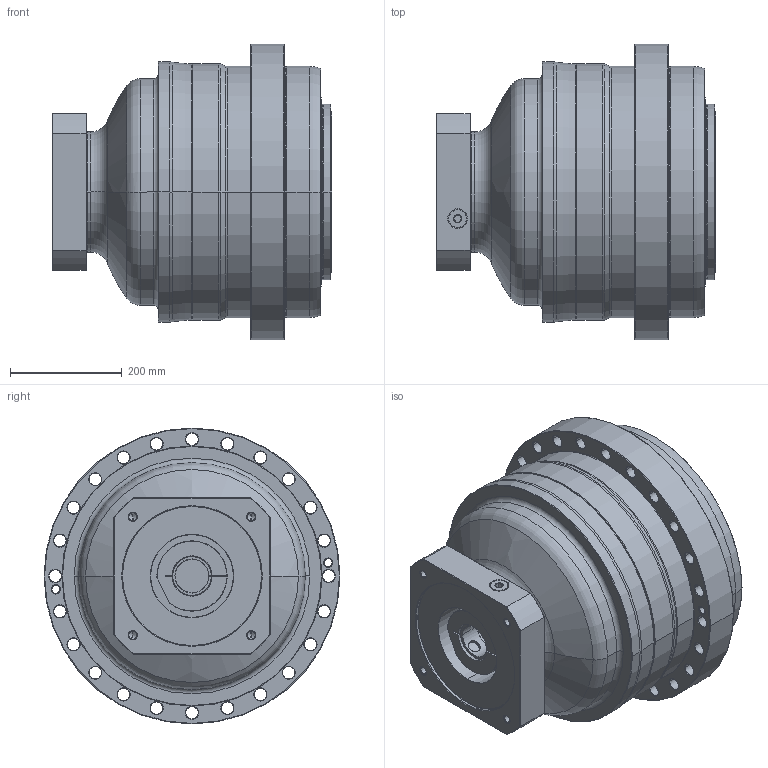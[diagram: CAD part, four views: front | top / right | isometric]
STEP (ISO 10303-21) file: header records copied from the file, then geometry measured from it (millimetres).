
FILE_DESCRIPTION((''),'2;1');
FILE_NAME('AP450_2ST_60-P0409D50201_ASM','2018-06-05T',('d01226'),(''),'PRO/ENGINEER BY PARAMETRIC TECHNOLOGY CORPORATION, 2008410','PRO/ENGINEER BY PARAMETRIC TECHNOLOGY CORPORATION, 2008410','');
FILE_SCHEMA(('CONFIG_CONTROL_DESIGN'));
Length unit declared in the file: millimetre
Products named in the file (9): P0276201003; P0357201103; P1339210301; P0503D00016; P0962205001; P1222200001; P0409D50201; 21711426021; AP450_2ST_60-P0409D50201_ASM
Assembly tree (8 placements, depth 2):
  AP450_2ST_60-P0409D50201_ASM
    P0276201003
    P0357201103
    P1339210301
    P0503D00016
    P0962205001
    P1222200001
    P0409D50201
    21711426021
Bounding box: 501 x 530 x 530 mm (x, y, z)
Volume: 49086481.2 mm3; surface area: 2184857.2 mm2
Topology: 9 solids, 31 shells, 637 faces, 1461 edges, 886 vertices
Faces by surface type: cylinder 250, cone 182, plane 99, torus 92, bspline 14
Entity records: 22898 total; most frequent: CARTESIAN_POINT 7711, DIRECTION 3511, ORIENTED_EDGE 2818, AXIS2_PLACEMENT_3D 1507, EDGE_CURVE 1453, VERTEX_POINT 886, CIRCLE 857, EDGE_LOOP 781
